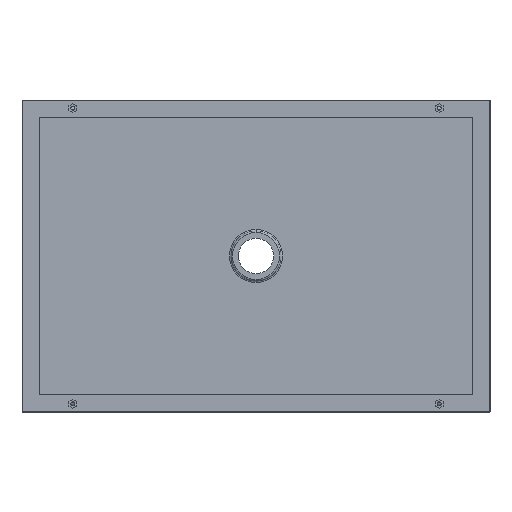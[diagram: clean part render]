
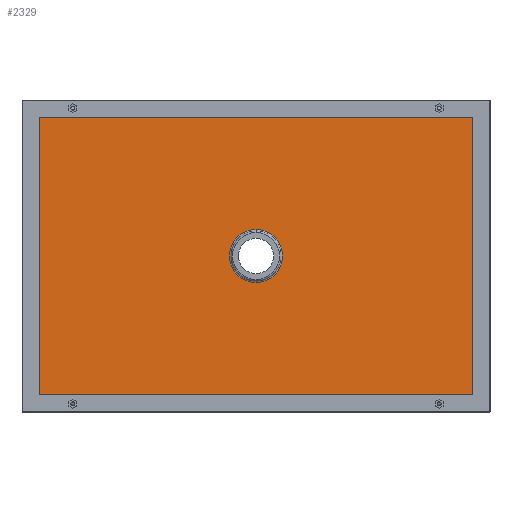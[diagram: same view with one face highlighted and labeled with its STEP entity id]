
A CAD part, front view. The second image highlights one B-rep face of the part: STEP entity #2329.
In plain terms, the highlighted planar face has unit normal (0, -1, 0).
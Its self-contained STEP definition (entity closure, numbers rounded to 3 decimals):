
#29 = CARTESIAN_POINT ( 'NONE',  ( -283.97, -93.97, -195. ) ) ;
#122 = VERTEX_POINT ( 'NONE', #575 ) ;
#250 = CARTESIAN_POINT ( 'NONE',  ( 295., -93.97, -183.97 ) ) ;
#261 = DIRECTION ( 'NONE',  ( 0., 0., 1. ) ) ;
#300 = VERTEX_POINT ( 'NONE', #3606 ) ;
#423 = CARTESIAN_POINT ( 'NONE',  ( -283.97, -93.97, 183.97 ) ) ;
#453 = LINE ( 'NONE', #985, #2275 ) ;
#462 = DIRECTION ( 'NONE',  ( -1., 0., 0. ) ) ;
#466 = CIRCLE ( 'NONE', #1196, 34. ) ;
#575 = CARTESIAN_POINT ( 'NONE',  ( 283.97, -93.97, -183.97 ) ) ;
#631 = DIRECTION ( 'NONE',  ( 0., 1., 0. ) ) ;
#660 = VECTOR ( 'NONE', #462, 1000. ) ;
#764 = VERTEX_POINT ( 'NONE', #1564 ) ;
#903 = FACE_OUTER_BOUND ( 'NONE', #4769, .T. ) ;
#963 = CARTESIAN_POINT ( 'NONE',  ( 0., -93.97, 0. ) ) ;
#985 = CARTESIAN_POINT ( 'NONE',  ( 283.97, -93.97, 195. ) ) ;
#990 = DIRECTION ( 'NONE',  ( 1., 0., 0. ) ) ;
#994 = EDGE_CURVE ( 'NONE', #764, #1168, #466, .T. ) ;
#1003 = EDGE_CURVE ( 'NONE', #1426, #2244, #3271, .T. ) ;
#1020 = ORIENTED_EDGE ( 'NONE', *, *, #1771, .T. ) ;
#1050 = CIRCLE ( 'NONE', #2759, 34. ) ;
#1083 = PLANE ( 'NONE',  #1554 ) ;
#1168 = VERTEX_POINT ( 'NONE', #1479 ) ;
#1196 = AXIS2_PLACEMENT_3D ( 'NONE', #2611, #631, #2567 ) ;
#1426 = VERTEX_POINT ( 'NONE', #423 ) ;
#1434 = DIRECTION ( 'NONE',  ( 0., 0., 1. ) ) ;
#1479 = CARTESIAN_POINT ( 'NONE',  ( 0., -93.97, -34. ) ) ;
#1492 = EDGE_CURVE ( 'NONE', #1168, #764, #1050, .T. ) ;
#1554 = AXIS2_PLACEMENT_3D ( 'NONE', #4758, #1787, #1434 ) ;
#1564 = CARTESIAN_POINT ( 'NONE',  ( 0., -93.97, 34. ) ) ;
#1751 = DIRECTION ( 'NONE',  ( 0., 0., 1. ) ) ;
#1771 = EDGE_CURVE ( 'NONE', #2244, #122, #4005, .T. ) ;
#1787 = DIRECTION ( 'NONE',  ( 0., 1., 0. ) ) ;
#1870 = DIRECTION ( 'NONE',  ( 0., 0., -1. ) ) ;
#1945 = DIRECTION ( 'NONE',  ( 0., 1., 0. ) ) ;
#2130 = VECTOR ( 'NONE', #1870, 1000. ) ;
#2244 = VERTEX_POINT ( 'NONE', #2560 ) ;
#2262 = VECTOR ( 'NONE', #990, 1000. ) ;
#2275 = VECTOR ( 'NONE', #1751, 1000. ) ;
#2329 = ADVANCED_FACE ( 'NONE', ( #4714, #903 ), #1083, .F. ) ;
#2344 = ORIENTED_EDGE ( 'NONE', *, *, #2805, .T. ) ;
#2560 = CARTESIAN_POINT ( 'NONE',  ( -283.97, -93.97, -183.97 ) ) ;
#2567 = DIRECTION ( 'NONE',  ( 0., 0., 1. ) ) ;
#2598 = LINE ( 'NONE', #2600, #660 ) ;
#2600 = CARTESIAN_POINT ( 'NONE',  ( -295., -93.97, 183.97 ) ) ;
#2602 = ORIENTED_EDGE ( 'NONE', *, *, #3131, .T. ) ;
#2611 = CARTESIAN_POINT ( 'NONE',  ( 0., -93.97, 0. ) ) ;
#2706 = ORIENTED_EDGE ( 'NONE', *, *, #1003, .T. ) ;
#2759 = AXIS2_PLACEMENT_3D ( 'NONE', #963, #1945, #261 ) ;
#2805 = EDGE_CURVE ( 'NONE', #300, #1426, #2598, .T. ) ;
#3131 = EDGE_CURVE ( 'NONE', #122, #300, #453, .T. ) ;
#3271 = LINE ( 'NONE', #29, #2130 ) ;
#3557 = ORIENTED_EDGE ( 'NONE', *, *, #994, .T. ) ;
#3606 = CARTESIAN_POINT ( 'NONE',  ( 283.97, -93.97, 183.97 ) ) ;
#3617 = EDGE_LOOP ( 'NONE', ( #3557, #4129 ) ) ;
#4005 = LINE ( 'NONE', #250, #2262 ) ;
#4129 = ORIENTED_EDGE ( 'NONE', *, *, #1492, .T. ) ;
#4714 = FACE_BOUND ( 'NONE', #3617, .T. ) ;
#4758 = CARTESIAN_POINT ( 'NONE',  ( 0., -93.97, 0. ) ) ;
#4769 = EDGE_LOOP ( 'NONE', ( #2602, #2344, #2706, #1020 ) ) ;
